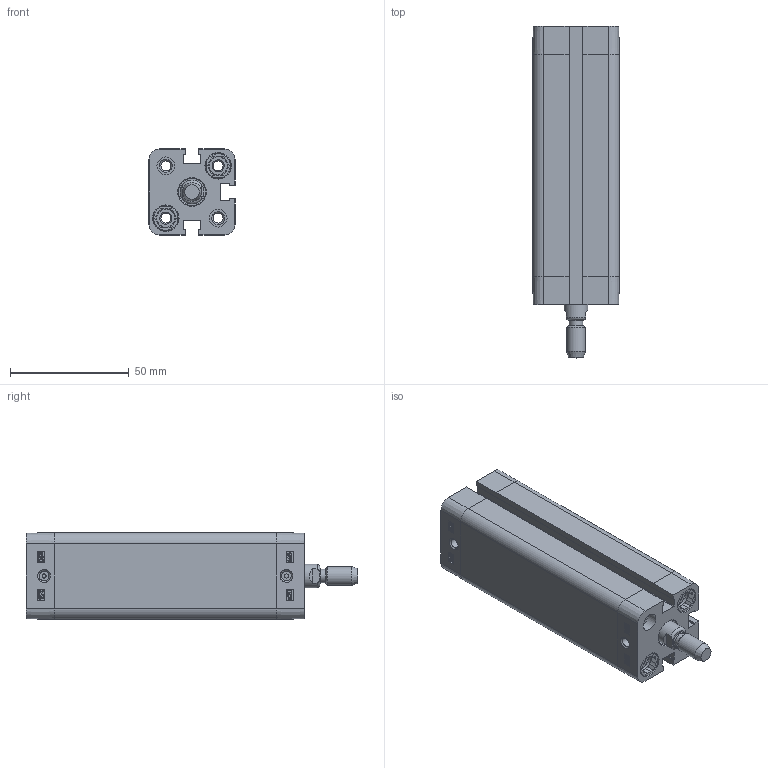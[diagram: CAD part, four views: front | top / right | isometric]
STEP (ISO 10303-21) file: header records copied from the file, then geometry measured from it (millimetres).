
FILE_DESCRIPTION((''),'2;1');
FILE_NAME('T:\Archivio Inventor\- CATALOGHI 2012\SERIE P - NUOVA\PDM\PDM020\PDM020.---.GS.M\STEP\PDM020.080.GS.M.stp','2013-01-30T10:58:55',('Administrator'),(''),'Autodesk Inventor 2012','Autodesk Inventor 2012','');
FILE_SCHEMA(('CONFIG_CONTROL_DESIGN'));
Length unit declared in the file: millimetre
Products named in the file (1): PDM020.080.GS.M
Bounding box: 36.3 x 139.6 x 36.3 mm (x, y, z)
Volume: 80402.4 mm3; surface area: 46300.5 mm2
Topology: 1 solids, 3 shells, 489 faces, 1225 edges, 798 vertices
Faces by surface type: plane 245, bspline 94, cylinder 88, cone 50, torus 12
Full cylindrical faces by diameter (mm): 1.75 x2, 4.134 x10, 5.8 x1, 7.5 x4, 7.55 x2, 8 x9, 9 x1, 10 x1, 10.8 x4, 11.1 x4, 11.4 x1, 20 x1, 22.3 x1, 22.5 x1
Entity records: 15057 total; most frequent: CARTESIAN_POINT 3740, ORIENTED_EDGE 2232, DIRECTION 1950, EDGE_CURVE 1116, VERTEX_POINT 782, VECTOR 670, LINE 670, EDGE_LOOP 652
